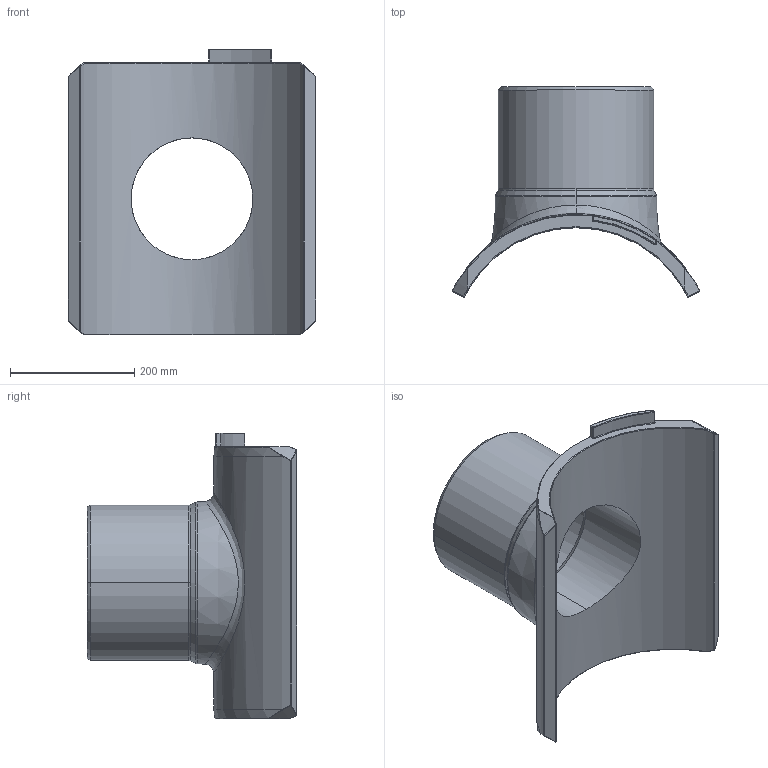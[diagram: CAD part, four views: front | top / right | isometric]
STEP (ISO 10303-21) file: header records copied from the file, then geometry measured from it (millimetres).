
FILE_DESCRIPTION((''),'2;1');
FILE_NAME('SA-UNI_D400_250_01','2024-10-29T13:41:04',('mikulicp'),(''),'CREO PARAMETRIC BY PTC INC, 2024133','CREO PARAMETRIC BY PTC INC, 2024133','');
FILE_SCHEMA(('AP242_MANAGED_MODEL_BASED_3D_ENGINEERING_MIM_LF { 1 0 10303 442 1 1 4 }'));
Length unit declared in the file: millimetre
Products named in the file (2): SA-UNI_D400_250_01; PE100
Bounding box: 397.99 x 337.63 x 460 mm (x, y, z)
Volume: 7948241.8 mm3; surface area: 706006.6 mm2
Topology: 1 solids, 1 shells, 241 faces, 583 edges, 360 vertices
Faces by surface type: bspline 77, plane 68, cylinder 49, sphere 20, torus 15, cone 12
Entity records: 15083 total; most frequent: CARTESIAN_POINT 6953, ORIENTED_EDGE 1166, DIRECTION 878, PRESENTATION_STYLE_ASSIGNMENT 595, STYLED_ITEM 584, CURVE_STYLE 583, EDGE_CURVE 583, VERTEX_POINT 360
